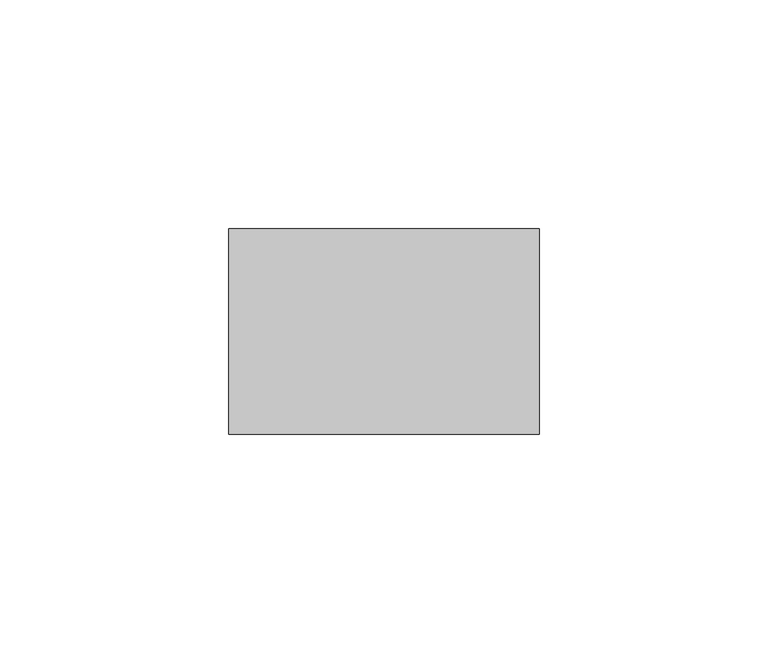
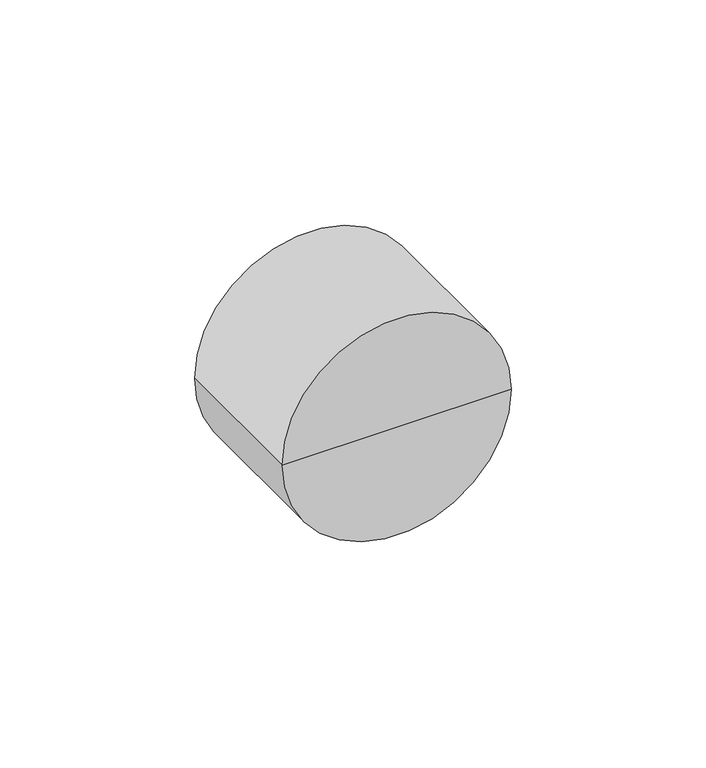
"""IFC4 building model written with IfcOpenShell, lengths in millimetres: cable carrier fitting geometry, IEK_Коробка монтажная : стены_полые."""

import ifcopenshell
import ifcopenshell.guid

model = None  # the IFC model being written
_history = None  # IfcOwnerHistory: only IFC2X3 demands one
_inside = {}  # id of a spatial element -> (the spatial element, [elements in it])
_under = {}  # id of a project, library or spatial element -> (it, [spatial elements below it])
_declared = {}  # id of a project -> (the project, [libraries it declares])
_typed = {}  # id of a type object -> (the type object, [elements of that type])
_made_of = {}  # id of a material, layer set ... -> (it, [elements and type objects made of it])


def new_model(schema):
    """Start an empty IFC model of exactly this schema.

    Asked for "IFC4X3", IfcOpenShell would pick the latest addendum, in which some entities
    have other attributes; the version numbers below select the first issue.
    IFC2X3 requires an IfcOwnerHistory on every rooted entity: one is made here for all.
    """
    global model, _history
    if schema == "IFC4X3":
        model = ifcopenshell.file(schema_version=(4, 3, 0, 0))
    else:
        model = ifcopenshell.file(schema=schema)
    _inside.clear()
    _under.clear()
    _declared.clear()
    _typed.clear()
    _made_of.clear()
    _history = None
    if model.schema == "IFC2X3":
        org = make("IfcOrganization", Name="unknown")
        user = make(
            "IfcPersonAndOrganization",
            ThePerson=make("IfcPerson", FamilyName="unknown"),
            TheOrganization=org,
        )
        app = make(
            "IfcApplication",
            ApplicationDeveloper=org,
            Version="unknown",
            ApplicationFullName="unknown",
            ApplicationIdentifier="unknown",
        )
        _history = make(
            "IfcOwnerHistory",
            OwningUser=user,
            OwningApplication=app,
            ChangeAction="ADDED",
            CreationDate=0,
        )
    return model


def make(cls, **values):
    """One entity of the class cls with the attributes given. An attribute that is None is left unset."""
    return model.create_entity(
        cls, **{name: value for name, value in values.items() if value is not None}
    )


def rooted(cls, **values):
    """An entity with a GlobalId (a new one), such as an element, a storey or a relation."""
    return make(cls, GlobalId=ifcopenshell.guid.new(), OwnerHistory=_history, **values)


def si_unit(unit_type, name, prefix=None):
    """IfcSIUnit, for example si_unit("LENGTHUNIT", "METRE", prefix="MILLI")."""
    return make("IfcSIUnit", UnitType=unit_type, Prefix=prefix, Name=name)


def assignment(units):
    """IfcUnitAssignment: the units of a project."""
    return None if units is None else make("IfcUnitAssignment", Units=units)


def point(xyz):
    """IfcCartesianPoint."""
    return None if xyz is None else make("IfcCartesianPoint", Coordinates=xyz)


def direction(xyz):
    """IfcDirection."""
    return None if xyz is None else make("IfcDirection", DirectionRatios=xyz)


def frame(location, z_axis=None, x_axis=None):
    """IfcAxis2Placement3D, a coordinate frame: its origin and axes. An axis left out is left unset."""
    return make(
        "IfcAxis2Placement3D",
        Location=point(location),
        Axis=direction(z_axis),
        RefDirection=direction(x_axis),
    )


def origin():
    """The frame at (0, 0, 0) with its axes left unset."""
    return frame((0.0, 0.0, 0.0))


def place(relative_to, where):
    """IfcLocalPlacement: puts the frame where relative to a parent placement (None: the world)."""
    return make(
        "IfcLocalPlacement", PlacementRelTo=relative_to, RelativePlacement=where
    )


def context(
    kind, dimensions, precision=None, world=None, true_north=None, identifier=None
):
    """IfcGeometricRepresentationContext, for example the 3D "Model" context."""
    return make(
        "IfcGeometricRepresentationContext",
        ContextIdentifier=identifier,
        ContextType=kind,
        CoordinateSpaceDimension=dimensions,
        Precision=precision,
        WorldCoordinateSystem=world,
        TrueNorth=true_north,
    )


def project(units=None, contexts=None):
    """IfcProject with its units and contexts."""
    return rooted(
        "IfcProject",
        Name="project",
        RepresentationContexts=contexts,
        UnitsInContext=assignment(units),
    )


def spatial(cls, under=None, at=None, **own):
    """A site, building, storey or space (cls), placed at a placement, below another one or the project."""
    s = rooted(cls, ObjectPlacement=at, **own)
    if under is not None:
        _under.setdefault(under.id(), (under, []))[1].append(s)
    return s


def polyline(points):
    """IfcPolyline through the points."""
    return make("IfcPolyline", Points=[point(p) for p in points])


def circle_curve(where, radius):
    """IfcCircle in the frame where."""
    return make("IfcCircle", Position=where, Radius=radius)


def shape(context_of_items, identifier, shape_type, items):
    """IfcShapeRepresentation: the items that make up one representation, for example the "Body"."""
    return make(
        "IfcShapeRepresentation",
        ContextOfItems=context_of_items,
        RepresentationIdentifier=identifier,
        RepresentationType=shape_type,
        Items=items,
    )


def source(mapping_origin, context_of_items, identifier, shape_type, items):
    """IfcRepresentationMap: a shape defined once, which mapped items show again and again."""
    return make(
        "IfcRepresentationMap",
        MappingOrigin=mapping_origin,
        MappedRepresentation=shape(context_of_items, identifier, shape_type, items),
    )


def transform(
    local_origin,
    x_axis=None,
    y_axis=None,
    z_axis=None,
    scale=None,
    scale2=None,
    scale3=None,
    uniform=True,
):
    """IfcCartesianTransformationOperator3D, or its non-uniform kind. x_axis, y_axis, z_axis: its Axis1, 2, 3."""
    if uniform:
        return make(
            "IfcCartesianTransformationOperator3D",
            Axis1=direction(x_axis),
            Axis2=direction(y_axis),
            LocalOrigin=point(local_origin),
            Scale=scale,
            Axis3=direction(z_axis),
        )
    return make(
        "IfcCartesianTransformationOperator3DnonUniform",
        Axis1=direction(x_axis),
        Axis2=direction(y_axis),
        LocalOrigin=point(local_origin),
        Scale=scale,
        Axis3=direction(z_axis),
        Scale2=scale2,
        Scale3=scale3,
    )


def mapped(mapping_source, mapping_target):
    """IfcMappedItem: shows the shape of a source again, moved by a transform."""
    return make(
        "IfcMappedItem", MappingSource=mapping_source, MappingTarget=mapping_target
    )


def made_of(thing, what):
    """Note that an element or type object is made of a material, layer set ...; save() writes the relation."""
    if what is not None:
        _made_of.setdefault(what.id(), (what, []))[1].append(thing)
    return thing


def element(
    cls,
    number,
    at=None,
    inside=None,
    cuts=None,
    type_object=None,
    material=None,
    context=None,
    identifier="Body",
    shape_type=None,
    held_by="IfcProductDefinitionShape",
    body=None,
    shapes=None,
    **own,
):
    """One element of the class cls, such as IfcWall. Its Tag is "e" and its number.

    at: its placement. inside: the storey or other place that contains it. cuts: it is an
    opening in that element (IfcRelVoidsElement). A single representation is given by context,
    identifier, shape_type and body (its items); several are given by shapes. held_by: the class
    of the entity that holds the representations. save() writes the other relations.
    """
    e = rooted(cls, Tag="e%d" % number, ObjectPlacement=at, **own)
    if body is not None:
        shapes = [shape(context, identifier, shape_type, body)]
    if shapes is not None:
        e.Representation = make(held_by, Representations=shapes)
    if inside is not None:
        _inside.setdefault(inside.id(), (inside, []))[1].append(e)
    if cuts is not None:
        rooted(
            "IfcRelVoidsElement", RelatingBuildingElement=cuts, RelatedOpeningElement=e
        )
    if type_object is not None:
        _typed.setdefault(type_object.id(), (type_object, []))[1].append(e)
    return made_of(e, material)


def aggregate(whole, parts):
    """IfcRelAggregates: a whole, such as a stair, and the parts it consists of."""
    return rooted("IfcRelAggregates", RelatingObject=whole, RelatedObjects=parts)


def save(model, path):
    """Write the relations noted so far, then the file.

    IfcRelAggregates (storeys below a building ...), IfcRelContainedInSpatialStructure (elements
    in a storey), IfcRelDefinesByType, IfcRelAssociatesMaterial and IfcRelDeclares: one each for
    every whole, place, type object, material and project.
    """
    for whole, parts in _under.values():
        aggregate(whole, parts)
    for where, things in _inside.values():
        rooted(
            "IfcRelContainedInSpatialStructure",
            RelatedElements=things,
            RelatingStructure=where,
        )
    for kind, things in _typed.values():
        rooted("IfcRelDefinesByType", RelatedObjects=things, RelatingType=kind)
    for what, things in _made_of.values():
        rooted("IfcRelAssociatesMaterial", RelatedObjects=things, RelatingMaterial=what)
    for by, libraries in _declared.values():
        rooted("IfcRelDeclares", RelatingContext=by, RelatedDefinitions=libraries)
    model.write(path)


def plane_surface(at):
    """IfcPlane: the flat surface through the origin of the frame at, square to its z axis."""
    return make("IfcPlane", Position=at)


def cylinder_surface(at, radius):
    """IfcCylindricalSurface: all points at the distance radius from the z axis of the frame at."""
    return make("IfcCylindricalSurface", Position=at, Radius=radius)


def revolved_surface(curve, axis_point, axis_direction):
    """IfcSurfaceOfRevolution: the curve turned about the line through axis_point along axis_direction."""
    return make(
        "IfcSurfaceOfRevolution",
        SweptCurve=make("IfcArbitraryOpenProfileDef", ProfileType="CURVE", Curve=curve),
        AxisPosition=make("IfcAxis1Placement", Location=point(axis_point), Axis=direction(axis_direction)),
    )


def advanced_brep(points, edges, surfaces, faces):
    """IfcAdvancedBrep: a solid bounded by faces that lie on surfaces and meet in shared edges.

    An edge is (start, end): straight between two places in points (the first is 0);
    or (start, end, curve); or (start, end, curve, False) where it runs against its curve.
    A face is (place in surfaces, loops), or (place, loops, False) where it looks against
    its surface's normal. A loop lists edges by number (the first is 1), with a minus sign
    where the edge is run from its end to its start. The first loop is the outer one.
    """
    corners = [point(p) for p in points]
    vertices = [make("IfcVertexPoint", VertexGeometry=c) for c in corners]
    made = []
    for start, end, *more in edges:
        made.append(
            make(
                "IfcEdgeCurve",
                EdgeStart=vertices[start],
                EdgeEnd=vertices[end],
                EdgeGeometry=more[0] if more else make("IfcPolyline", Points=[corners[start], corners[end]]),
                SameSense=more[1] if len(more) > 1 else True,
            )
        )
    hull = []
    for where, loops, *sense in faces:
        bounds = []
        for j, loop in enumerate(loops):
            ring = [make("IfcOrientedEdge", EdgeElement=made[abs(k) - 1], Orientation=k > 0) for k in loop]
            bounds.append(
                make(
                    "IfcFaceOuterBound" if j == 0 else "IfcFaceBound",
                    Bound=make("IfcEdgeLoop", EdgeList=ring),
                    Orientation=True,
                )
            )
        hull.append(make("IfcAdvancedFace", Bounds=bounds, FaceSurface=surfaces[where], SameSense=sense[0] if sense else True))
    return make("IfcAdvancedBrep", Outer=make("IfcClosedShell", CfsFaces=hull))


def cable_carrier_fitting_a64d4eba(model_context):
    return source(origin(), model_context, "Body", "AdvancedBrep", [
        advanced_brep(
        [(0.0, -45.0, 0.0), (-34.0, -45.0, 0.0), (34.0, -45.0, 0.0), (32.5, -43.5, 0.0), (-32.5, -43.5, 0.0), (0.0, -43.5, 0.0), (32.5, 0.0, 0.0), (-32.5, 0.0, 0.0), (34.0, 0.0, 0.0), (-34.0, 0.0, 0.0)],
        [
            (0, 1),
            (1, 2, circle_curve(frame((0.0, -45.0, 0.0), z_axis=(0.0, -1.0, 0.0), x_axis=(-1.0, 0.0, 0.0)), 34.0)),
            (2, 0),
            (2, 1, circle_curve(frame((0.0, -45.0, 0.0), z_axis=(0.0, -1.0, 0.0), x_axis=(-1.0, 0.0, 0.0)), 34.0)),
            (3, 4, circle_curve(frame((0.0, -43.5, 0.0), z_axis=(0.0, 1.0, 0.0), x_axis=(-1.0, 0.0, 0.0)), 32.5)),
            (4, 5),
            (5, 3),
            (4, 3, circle_curve(frame((0.0, -43.5, 0.0), z_axis=(0.0, 1.0, 0.0), x_axis=(-1.0, 0.0, 0.0)), 32.5)),
            (6, 7, circle_curve(frame((0.0, 0.0, 0.0), z_axis=(0.0, 1.0, 0.0), x_axis=(-1.0, 0.0, 0.0)), 32.5)),
            (7, 4),
            (3, 6),
            (7, 6, circle_curve(frame((0.0, 0.0, 0.0), z_axis=(0.0, 1.0, 0.0), x_axis=(-1.0, 0.0, 0.0)), 32.5)),
            (8, 9, circle_curve(frame((0.0, 0.0, 0.0), z_axis=(0.0, 1.0, 0.0), x_axis=(-1.0, 0.0, 0.0)), 34.0)),
            (9, 7),
            (6, 8),
            (9, 8, circle_curve(frame((0.0, 0.0, 0.0), z_axis=(0.0, 1.0, 0.0), x_axis=(-1.0, 0.0, 0.0)), 34.0)),
            (1, 9),
            (8, 2),
        ],
        [
            plane_surface(frame((0.0, -45.0, 0.0), z_axis=(0.0, -1.0, 0.0), x_axis=(-1.0, 0.0, 0.0))),
            plane_surface(frame((0.0, -43.5, 0.0), z_axis=(0.0, 1.0, 0.0), x_axis=(-1.0, 0.0, 0.0))),
            revolved_surface(polyline([(-32.5, -43.5, 0.0), (-32.5, 0.0, 0.0)]), (0.0, 2000.0, 0.0), (0.0, -1.0, 0.0)),
            plane_surface(frame((0.0, 0.0, 0.0), z_axis=(0.0, 1.0, 0.0), x_axis=(-1.0, 0.0, 0.0))),
            cylinder_surface(frame((0.0, 2000.0, 0.0), z_axis=(0.0, -1.0, 0.0), x_axis=(-1.0, 0.0, 0.0)), 34.0),
        ],
        [
            (0, [[1, 2, 3]]),
            (0, [[-3, 4, -1]]),
            (1, [[5, 6, 7]]),
            (1, [[8, -7, -6]]),
            (2, [[9, 10, -5, 11]]),
            (2, [[12, -11, -8, -10]]),
            (3, [[13, 14, -9, 15]]),
            (3, [[16, -15, -12, -14]]),
            (4, [[-2, 17, -13, 18]]),
            (4, [[-4, -18, -16, -17]]),
        ],
    ),
    ])


if __name__ == "__main__":
    model = new_model("IFC4")
    model_context = context("Model", 3, world=origin())
    ifc_project = project(units=[si_unit("LENGTHUNIT", "METRE", prefix="MILLI")], contexts=[model_context])
    site = spatial("IfcSite", under=ifc_project)
    building = spatial("IfcBuilding", under=site)
    placement = place(None, origin())
    cable_carrier_fitting_shape = cable_carrier_fitting_a64d4eba(model_context)
    element("IfcCableCarrierFitting", 1, ObjectType="IEK_Коробка монтажная : стены_полые", at=placement, inside=building, context=model_context, shape_type="MappedRepresentation", body=[
        mapped(cable_carrier_fitting_shape, transform((0.0, 0.0, 0.0), x_axis=(1.0, 0.0, 0.0), y_axis=(0.0, 1.0, 0.0), z_axis=(0.0, 0.0, 1.0))),
    ])
    save(model, "model.ifc")
